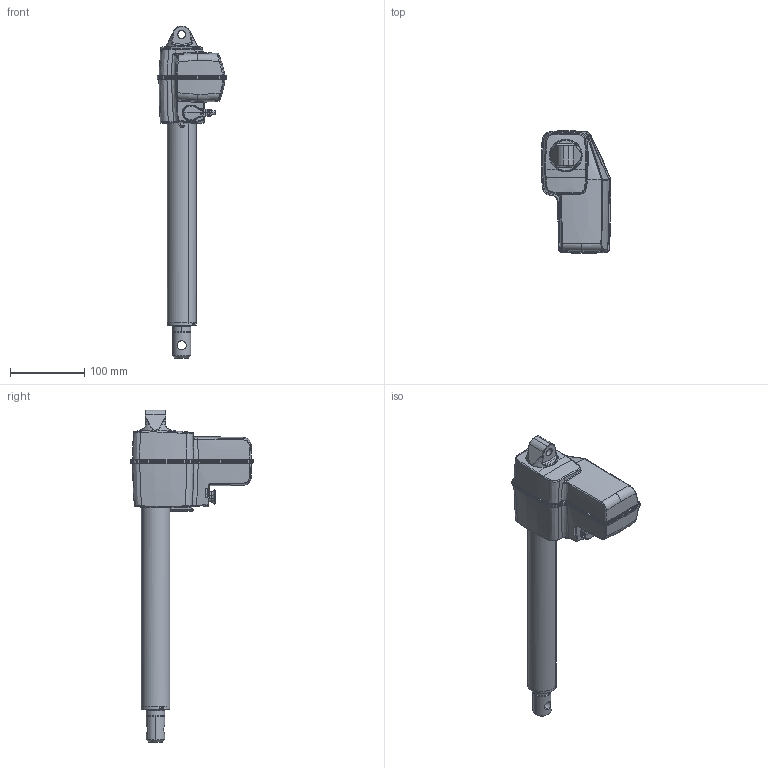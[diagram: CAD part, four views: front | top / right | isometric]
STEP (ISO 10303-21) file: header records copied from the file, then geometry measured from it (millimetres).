
FILE_DESCRIPTION((''),'2;1');
FILE_NAME('0404005','2014-12-03T',('TI'),(''),'PRO/ENGINEER BY PARAMETRIC TECHNOLOGY CORPORATION, 2014000','PRO/ENGINEER BY PARAMETRIC TECHNOLOGY CORPORATION, 2014000','');
FILE_SCHEMA(('CONFIG_CONTROL_DESIGN'));
Products named in the file (1): 0404005
Bounding box: 94.31 x 165.47 x 448.5 mm (x, y, z)
Volume: 1268605.6 mm3; surface area: 106323.5 mm2
Topology: 1 solids, 1 shells, 1362 faces, 3548 edges, 2174 vertices
Faces by surface type: cylinder 374, bspline 281, torus 263, plane 243, cone 94, extrusion 74, sphere 30, revolution 3
Entity records: 58088 total; most frequent: CARTESIAN_POINT 27466, ORIENTED_EDGE 7034, DIRECTION 5585, EDGE_CURVE 3517, AXIS2_PLACEMENT_3D 2246, VERTEX_POINT 2174, EDGE_LOOP 1405, FACE_OUTER_BOUND 1362
